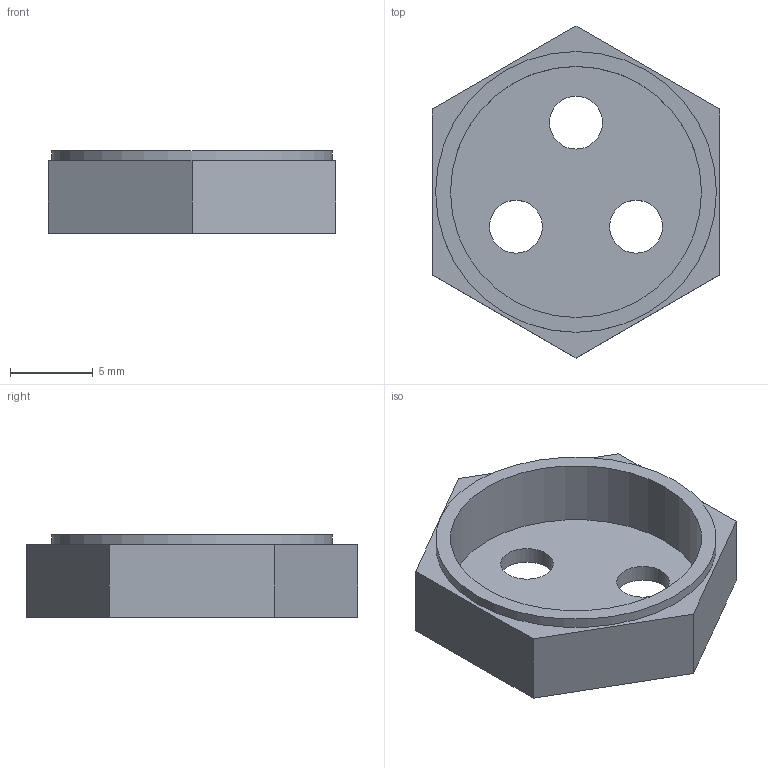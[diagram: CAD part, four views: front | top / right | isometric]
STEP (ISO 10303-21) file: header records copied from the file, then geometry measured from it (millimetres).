
FILE_DESCRIPTION(/* description */ (''),/* implementation_level */ '2;1');
FILE_NAME(/* name */ '3-20-2 Nut spacer.step',/* time_stamp */ '2025-05-10T22:05:12+02:00',/* author */ (''),/* organization */ (''),/* preprocessor_version */ 'ST-DEVELOPER v20.1',/* originating_system */ 'Autodesk Translation Framework v14.4.0.0',/* authorisation */ '');
FILE_SCHEMA (('AUTOMOTIVE_DESIGN { 1 0 10303 214 3 1 1 }'));
Length unit declared in the file: millimetre
Products named in the file (1): Nut spacer (1)
Bounding box: 17.4 x 20.09 x 5 mm (x, y, z)
Volume: 539.9 mm3; surface area: 994.6 mm2
Topology: 1 solids, 1 shells, 15 faces, 33 edges, 22 vertices
Faces by surface type: plane 10, cylinder 5
Full cylindrical faces by diameter (mm): 3.2 x3, 15.2 x1, 17 x1
Entity records: 469 total; most frequent: DIRECTION 75, CARTESIAN_POINT 71, ORIENTED_EDGE 66, EDGE_CURVE 33, AXIS2_PLACEMENT_3D 26, EDGE_LOOP 23, LINE 23, VECTOR 23
